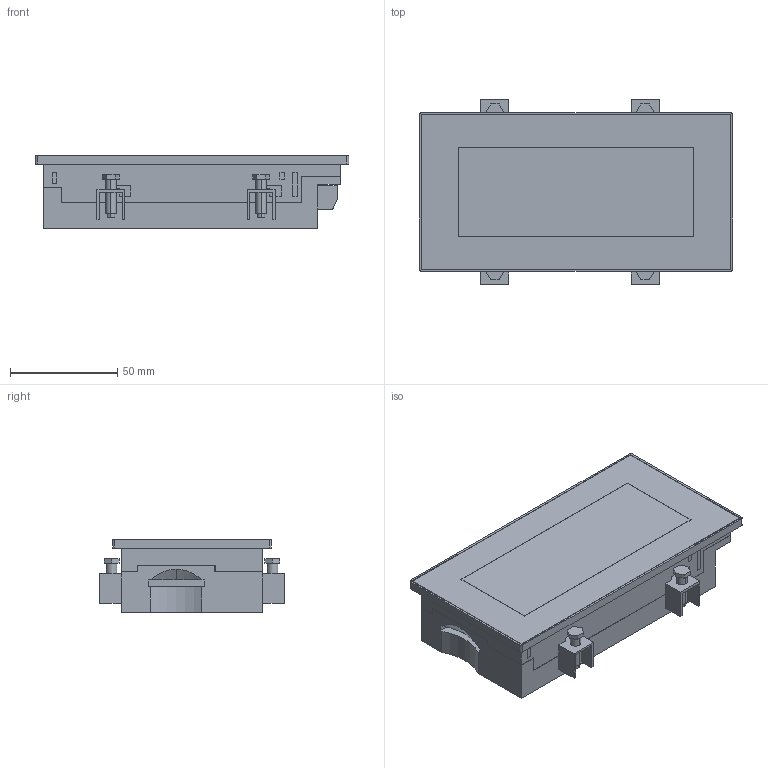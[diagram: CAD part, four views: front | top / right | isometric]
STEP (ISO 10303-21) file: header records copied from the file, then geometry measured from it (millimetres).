
FILE_DESCRIPTION (( 'STEP AP203' ), '1' );
FILE_NAME ('aig704wmn1b2.STEP', '2016-11-22T07:12:38', ( '' ), ( '' ), 'SwSTEP 2.0', 'SolidWorks 2014', '' );
FILE_SCHEMA (( 'CONFIG_CONTROL_DESIGN' ));
Length unit declared in the file: millimetre
Products named in the file (6): aig704wmn1b2; aig704wmn1b2_default; aig703wmn1b5_bracket; aig703wmn1b5_terminal block; aig703wmn1b5_screw; aig704wmn1b2_battery cover
Assembly tree (11 placements, depth 2):
  aig704wmn1b2
    aig704wmn1b2_default
    aig703wmn1b5_terminal block
    aig704wmn1b2_battery cover
    aig703wmn1b5_bracket  x4
    aig703wmn1b5_screw  x4
Bounding box: 146 x 86 x 34 mm (x, y, z)
Volume: 290834.5 mm3; surface area: 53791.2 mm2
Topology: 11 solids, 11 shells, 784 faces, 1993 edges, 1321 vertices
Faces by surface type: plane 732, cylinder 50, bspline 2
Entity records: 20091 total; most frequent: CARTESIAN_POINT 3499, ORIENTED_EDGE 3302, DIRECTION 3033, EDGE_CURVE 1651, VECTOR 1583, LINE 1583, VERTEX_POINT 1093, EDGE_LOOP 732
